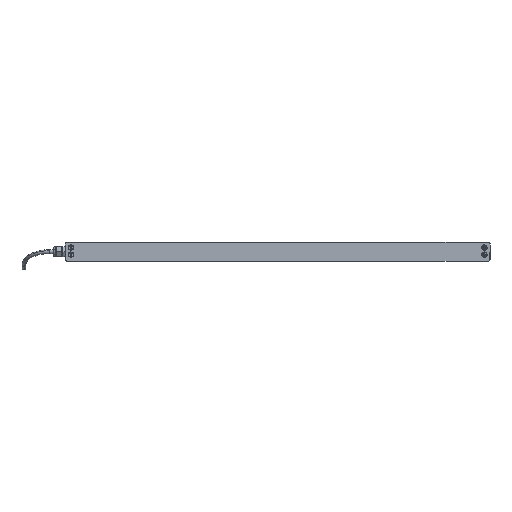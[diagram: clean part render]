
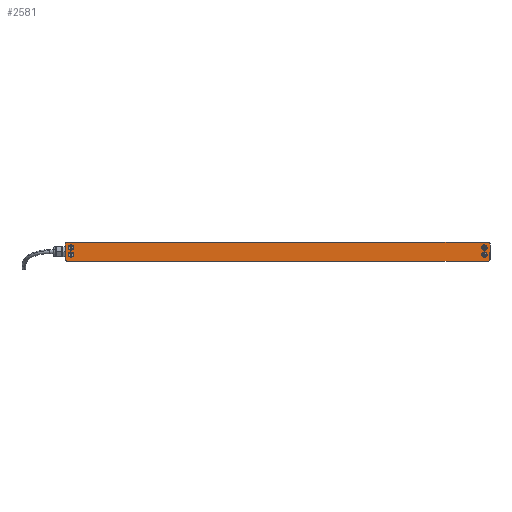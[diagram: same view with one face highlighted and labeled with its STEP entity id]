
A CAD part, left-side view. The second image highlights one B-rep face of the part: STEP entity #2581.
In plain terms, the highlighted planar face has unit normal (-1, 0, 0) as drawn and (0, 0, -1) by its records, which use the part's own axes.
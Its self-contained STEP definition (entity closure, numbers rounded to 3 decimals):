
#327 = AXIS2_PLACEMENT_3D ( 'NONE', #6880, #5705, #5632 ) ;
#333 = VERTEX_POINT ( 'NONE', #1302 ) ;
#376 = CARTESIAN_POINT ( 'NONE',  ( 439., -16., 0. ) ) ;
#406 = VECTOR ( 'NONE', #5651, 1000. ) ;
#664 = DIRECTION ( 'NONE',  ( 0., 0., -1. ) ) ;
#743 = ORIENTED_EDGE ( 'NONE', *, *, #12784, .F. ) ;
#881 = DIRECTION ( 'NONE',  ( -1., 0., 0. ) ) ;
#884 = ORIENTED_EDGE ( 'NONE', *, *, #14199, .F. ) ;
#1212 = CARTESIAN_POINT ( 'NONE',  ( -439., 20., 0. ) ) ;
#1225 = CIRCLE ( 'NONE', #11319, 5.6 ) ;
#1302 = CARTESIAN_POINT ( 'NONE',  ( -443., 16., 0. ) ) ;
#1359 = CARTESIAN_POINT ( 'NONE',  ( 443., -16., 0. ) ) ;
#1411 = DIRECTION ( 'NONE',  ( -1., 0., 0. ) ) ;
#1439 = DIRECTION ( 'NONE',  ( 0., 1., 0. ) ) ;
#1858 = VERTEX_POINT ( 'NONE', #5815 ) ;
#1914 = CIRCLE ( 'NONE', #15527, 5.6 ) ;
#1947 = CARTESIAN_POINT ( 'NONE',  ( -439., -20., 0. ) ) ;
#1951 = EDGE_CURVE ( 'NONE', #10543, #3001, #14929, .T. ) ;
#2068 = CARTESIAN_POINT ( 'NONE',  ( -436.9, -6.3, 0. ) ) ;
#2072 = DIRECTION ( 'NONE',  ( 0., 0., 1. ) ) ;
#2192 = VECTOR ( 'NONE', #1439, 1000. ) ;
#2455 = ORIENTED_EDGE ( 'NONE', *, *, #3447, .F. ) ;
#2570 = CARTESIAN_POINT ( 'NONE',  ( 431.3, 8.5, 0. ) ) ;
#2581 = ADVANCED_FACE ( 'NONE', ( #9321, #9094, #6942, #6642, #14129 ), #8135, .T. ) ;
#2599 = EDGE_CURVE ( 'NONE', #12141, #2952, #1225, .T. ) ;
#2763 = ORIENTED_EDGE ( 'NONE', *, *, #3926, .F. ) ;
#2807 = EDGE_CURVE ( 'NONE', #6944, #5332, #12406, .T. ) ;
#2952 = VERTEX_POINT ( 'NONE', #4619 ) ;
#3001 = VERTEX_POINT ( 'NONE', #7551 ) ;
#3316 = CIRCLE ( 'NONE', #327, 5.6 ) ;
#3447 = EDGE_CURVE ( 'NONE', #5332, #333, #7123, .T. ) ;
#3563 = AXIS2_PLACEMENT_3D ( 'NONE', #2570, #7309, #4766 ) ;
#3589 = CARTESIAN_POINT ( 'NONE',  ( -431.3, 8.5, 0. ) ) ;
#3675 = AXIS2_PLACEMENT_3D ( 'NONE', #376, #13474, #10948 ) ;
#3690 = CARTESIAN_POINT ( 'NONE',  ( 439., 16., 0. ) ) ;
#3770 = ORIENTED_EDGE ( 'NONE', *, *, #11595, .F. ) ;
#3926 = EDGE_CURVE ( 'NONE', #8097, #13182, #12660, .T. ) ;
#4229 = AXIS2_PLACEMENT_3D ( 'NONE', #11479, #664, #5461 ) ;
#4269 = CARTESIAN_POINT ( 'NONE',  ( -431.3, 8.5, 0. ) ) ;
#4414 = CARTESIAN_POINT ( 'NONE',  ( -439., -16., 0. ) ) ;
#4619 = CARTESIAN_POINT ( 'NONE',  ( -425.7, 8.5, 0. ) ) ;
#4632 = DIRECTION ( 'NONE',  ( 0., -1., 0. ) ) ;
#4677 = DIRECTION ( 'NONE',  ( -1., 0., 0. ) ) ;
#4766 = DIRECTION ( 'NONE',  ( -1., 0., 0. ) ) ;
#4934 = DIRECTION ( 'NONE',  ( 0., 0., -1. ) ) ;
#4945 = ORIENTED_EDGE ( 'NONE', *, *, #13514, .F. ) ;
#5034 = ORIENTED_EDGE ( 'NONE', *, *, #7856, .F. ) ;
#5332 = VERTEX_POINT ( 'NONE', #1212 ) ;
#5461 = DIRECTION ( 'NONE',  ( -1., 0., 0. ) ) ;
#5632 = DIRECTION ( 'NONE',  ( -1., 0., 0. ) ) ;
#5646 = CIRCLE ( 'NONE', #7921, 4. ) ;
#5651 = DIRECTION ( 'NONE',  ( 1., 0., 0. ) ) ;
#5705 = DIRECTION ( 'NONE',  ( 0., 0., -1. ) ) ;
#5815 = CARTESIAN_POINT ( 'NONE',  ( 443., 16., 0. ) ) ;
#5882 = DIRECTION ( 'NONE',  ( 0., 0., -1. ) ) ;
#5919 = CARTESIAN_POINT ( 'NONE',  ( -439., -20., 0. ) ) ;
#5930 = ORIENTED_EDGE ( 'NONE', *, *, #14312, .F. ) ;
#5953 = CARTESIAN_POINT ( 'NONE',  ( 443., -16., 0. ) ) ;
#6078 = CARTESIAN_POINT ( 'NONE',  ( 436.9, -6.3, 0. ) ) ;
#6105 = DIRECTION ( 'NONE',  ( -1., 0., 0. ) ) ;
#6399 = VERTEX_POINT ( 'NONE', #5919 ) ;
#6461 = CIRCLE ( 'NONE', #8199, 5.6 ) ;
#6617 = AXIS2_PLACEMENT_3D ( 'NONE', #10678, #2072, #11629 ) ;
#6642 = FACE_BOUND ( 'NONE', #13274, .T. ) ;
#6699 = CIRCLE ( 'NONE', #8208, 5.6 ) ;
#6880 = CARTESIAN_POINT ( 'NONE',  ( -431.3, -6.3, 0. ) ) ;
#6942 = FACE_BOUND ( 'NONE', #12487, .T. ) ;
#6944 = VERTEX_POINT ( 'NONE', #12768 ) ;
#7123 = CIRCLE ( 'NONE', #6617, 4. ) ;
#7157 = CARTESIAN_POINT ( 'NONE',  ( 431.3, -6.3, 0. ) ) ;
#7183 = DIRECTION ( 'NONE',  ( -1., 0., 0. ) ) ;
#7309 = DIRECTION ( 'NONE',  ( 0., 0., -1. ) ) ;
#7504 = CARTESIAN_POINT ( 'NONE',  ( -439., 20., 0. ) ) ;
#7551 = CARTESIAN_POINT ( 'NONE',  ( 425.7, 8.5, 0. ) ) ;
#7558 = CARTESIAN_POINT ( 'NONE',  ( -431.3, -6.3, 0. ) ) ;
#7580 = CARTESIAN_POINT ( 'NONE',  ( 436.9, 8.5, 0. ) ) ;
#7772 = EDGE_CURVE ( 'NONE', #333, #13253, #13098, .T. ) ;
#7856 = EDGE_CURVE ( 'NONE', #1858, #6944, #12119, .T. ) ;
#7914 = DIRECTION ( 'NONE',  ( 0., 0., -1. ) ) ;
#7921 = AXIS2_PLACEMENT_3D ( 'NONE', #4414, #11689, #881 ) ;
#8097 = VERTEX_POINT ( 'NONE', #15391 ) ;
#8135 = PLANE ( 'NONE',  #4229 ) ;
#8195 = EDGE_LOOP ( 'NONE', ( #2763, #884 ) ) ;
#8199 = AXIS2_PLACEMENT_3D ( 'NONE', #13073, #5882, #4677 ) ;
#8208 = AXIS2_PLACEMENT_3D ( 'NONE', #7157, #14097, #12994 ) ;
#8280 = ORIENTED_EDGE ( 'NONE', *, *, #9074, .F. ) ;
#8534 = CARTESIAN_POINT ( 'NONE',  ( -443., -16., 0. ) ) ;
#8788 = VERTEX_POINT ( 'NONE', #12114 ) ;
#8891 = AXIS2_PLACEMENT_3D ( 'NONE', #9855, #4934, #1411 ) ;
#8917 = ORIENTED_EDGE ( 'NONE', *, *, #1951, .F. ) ;
#8922 = ORIENTED_EDGE ( 'NONE', *, *, #2599, .F. ) ;
#8955 = EDGE_LOOP ( 'NONE', ( #5034, #14147, #5930, #743, #3770, #9458, #2455, #10367 ) ) ;
#9074 = EDGE_CURVE ( 'NONE', #8788, #12469, #3316, .T. ) ;
#9094 = FACE_BOUND ( 'NONE', #8195, .T. ) ;
#9321 = FACE_BOUND ( 'NONE', #15104, .T. ) ;
#9458 = ORIENTED_EDGE ( 'NONE', *, *, #7772, .F. ) ;
#9830 = DIRECTION ( 'NONE',  ( 0., 0., -1. ) ) ;
#9855 = CARTESIAN_POINT ( 'NONE',  ( 431.3, -6.3, 0. ) ) ;
#10016 = DIRECTION ( 'NONE',  ( 0., 0., -1. ) ) ;
#10148 = VERTEX_POINT ( 'NONE', #5953 ) ;
#10367 = ORIENTED_EDGE ( 'NONE', *, *, #2807, .F. ) ;
#10543 = VERTEX_POINT ( 'NONE', #7580 ) ;
#10612 = CARTESIAN_POINT ( 'NONE',  ( -436.9, 8.5, 0. ) ) ;
#10678 = CARTESIAN_POINT ( 'NONE',  ( -439., 16., 0. ) ) ;
#10737 = CARTESIAN_POINT ( 'NONE',  ( -443., -16., 0. ) ) ;
#10782 = CARTESIAN_POINT ( 'NONE',  ( 439., -20., 0. ) ) ;
#10948 = DIRECTION ( 'NONE',  ( 1., 0., 0. ) ) ;
#10964 = DIRECTION ( 'NONE',  ( -1., 0., 0. ) ) ;
#11319 = AXIS2_PLACEMENT_3D ( 'NONE', #4269, #7914, #12730 ) ;
#11381 = ORIENTED_EDGE ( 'NONE', *, *, #13756, .F. ) ;
#11479 = CARTESIAN_POINT ( 'NONE',  ( 439., 16., 0. ) ) ;
#11595 = EDGE_CURVE ( 'NONE', #13253, #6399, #5646, .T. ) ;
#11629 = DIRECTION ( 'NONE',  ( -1., 0., 0. ) ) ;
#11689 = DIRECTION ( 'NONE',  ( 0., 0., 1. ) ) ;
#11882 = LINE ( 'NONE', #1947, #406 ) ;
#11940 = LINE ( 'NONE', #1359, #2192 ) ;
#12114 = CARTESIAN_POINT ( 'NONE',  ( -425.7, -6.3, 0. ) ) ;
#12119 = CIRCLE ( 'NONE', #12868, 4. ) ;
#12141 = VERTEX_POINT ( 'NONE', #10612 ) ;
#12143 = DIRECTION ( 'NONE',  ( 0., 0., 1. ) ) ;
#12241 = DIRECTION ( 'NONE',  ( -1., 0., 0. ) ) ;
#12406 = LINE ( 'NONE', #7504, #12812 ) ;
#12469 = VERTEX_POINT ( 'NONE', #2068 ) ;
#12474 = ORIENTED_EDGE ( 'NONE', *, *, #13740, .F. ) ;
#12487 = EDGE_LOOP ( 'NONE', ( #8922, #11381 ) ) ;
#12660 = CIRCLE ( 'NONE', #8891, 5.6 ) ;
#12730 = DIRECTION ( 'NONE',  ( -1., 0., 0. ) ) ;
#12768 = CARTESIAN_POINT ( 'NONE',  ( 439., 20., 0. ) ) ;
#12784 = EDGE_CURVE ( 'NONE', #6399, #12999, #11882, .T. ) ;
#12812 = VECTOR ( 'NONE', #12241, 1000. ) ;
#12868 = AXIS2_PLACEMENT_3D ( 'NONE', #3690, #12143, #10964 ) ;
#12994 = DIRECTION ( 'NONE',  ( -1., 0., 0. ) ) ;
#12999 = VERTEX_POINT ( 'NONE', #10782 ) ;
#13007 = CIRCLE ( 'NONE', #3675, 4. ) ;
#13073 = CARTESIAN_POINT ( 'NONE',  ( 431.3, 8.5, 0. ) ) ;
#13098 = LINE ( 'NONE', #10737, #15241 ) ;
#13182 = VERTEX_POINT ( 'NONE', #6078 ) ;
#13253 = VERTEX_POINT ( 'NONE', #8534 ) ;
#13274 = EDGE_LOOP ( 'NONE', ( #4945, #8280 ) ) ;
#13474 = DIRECTION ( 'NONE',  ( 0., 0., 1. ) ) ;
#13514 = EDGE_CURVE ( 'NONE', #12469, #8788, #1914, .T. ) ;
#13740 = EDGE_CURVE ( 'NONE', #3001, #10543, #6461, .T. ) ;
#13756 = EDGE_CURVE ( 'NONE', #2952, #12141, #15275, .T. ) ;
#13757 = AXIS2_PLACEMENT_3D ( 'NONE', #3589, #9830, #6105 ) ;
#14097 = DIRECTION ( 'NONE',  ( 0., 0., -1. ) ) ;
#14129 = FACE_OUTER_BOUND ( 'NONE', #8955, .T. ) ;
#14147 = ORIENTED_EDGE ( 'NONE', *, *, #15040, .F. ) ;
#14199 = EDGE_CURVE ( 'NONE', #13182, #8097, #6699, .T. ) ;
#14312 = EDGE_CURVE ( 'NONE', #12999, #10148, #13007, .T. ) ;
#14929 = CIRCLE ( 'NONE', #3563, 5.6 ) ;
#15040 = EDGE_CURVE ( 'NONE', #10148, #1858, #11940, .T. ) ;
#15104 = EDGE_LOOP ( 'NONE', ( #12474, #8917 ) ) ;
#15241 = VECTOR ( 'NONE', #4632, 1000. ) ;
#15275 = CIRCLE ( 'NONE', #13757, 5.6 ) ;
#15391 = CARTESIAN_POINT ( 'NONE',  ( 425.7, -6.3, 0. ) ) ;
#15527 = AXIS2_PLACEMENT_3D ( 'NONE', #7558, #10016, #7183 ) ;
